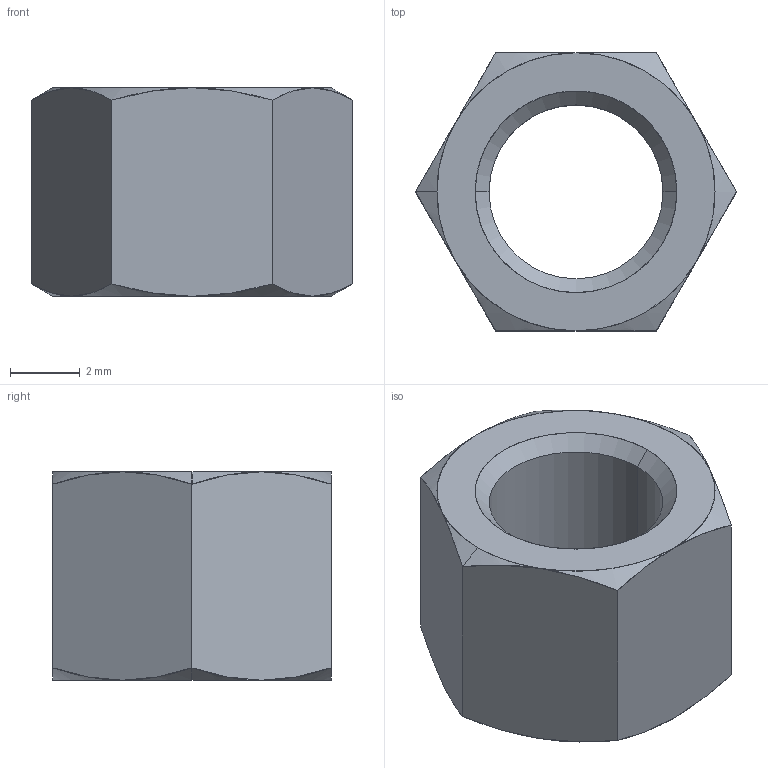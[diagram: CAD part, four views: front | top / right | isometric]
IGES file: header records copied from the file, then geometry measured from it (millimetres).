
Start section: SolidWorks IGES file using analytic representation for surfaces
Global section: file name: C:\Users\ianosborn\Desktop\N0503.NP_v2\N0503.NP_v2_20250227_IGES\N0503.050-006-NP.igs; native system: SolidWorks 2019; preprocessor: SolidWorks 2019; author: IanOsborn; date: 250227.144336; units: millimetre
Bounding box: 9.24 x 8 x 6 mm (x, y, z)
Surface area: 320 mm2 (no closed solid volume)
Topology: 0 solids, 0 shells, 28 faces, 286 edges, 286 vertices
Faces by surface type: revolution 20, bspline 8
